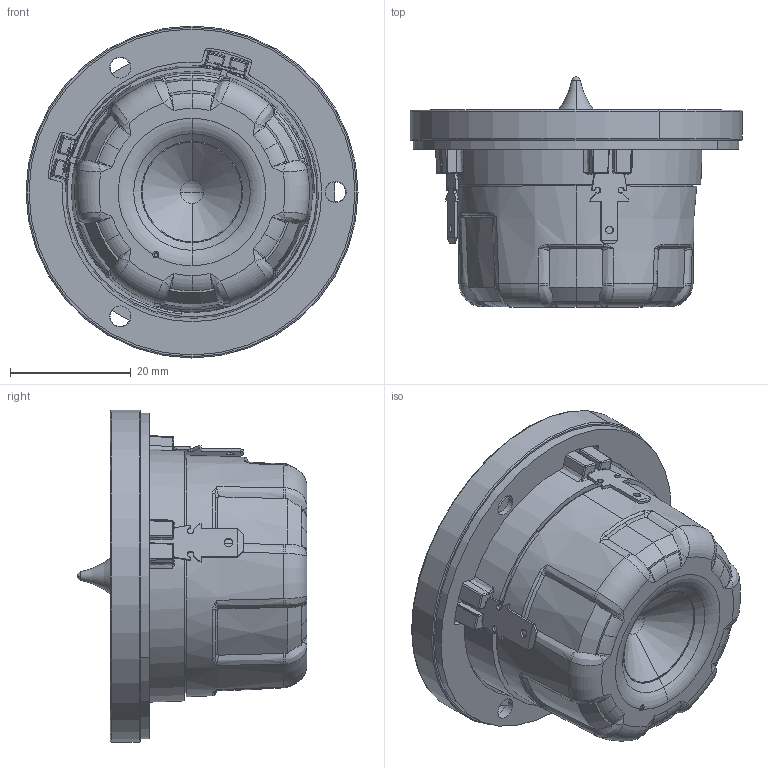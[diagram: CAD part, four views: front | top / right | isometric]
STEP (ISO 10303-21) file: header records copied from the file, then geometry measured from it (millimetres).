
FILE_DESCRIPTION (( 'STEP AP214' ), '1' );
FILE_NAME ('R2004-602200.STEP', '2024-01-03T13:35:29', ( '' ), ( '' ), 'SwSTEP 2.0', 'SolidWorks 2024', '' );
FILE_SCHEMA (( 'AUTOMOTIVE_DESIGN' ));
Length unit declared in the file: millimetre
Products named in the file (1): R2004-602200
Bounding box: 55 x 38.1 x 55 mm (x, y, z)
Volume: 43242 mm3; surface area: 12135 mm2
Topology: 3 solids, 5 shells, 599 faces, 1620 edges, 986 vertices
Faces by surface type: plane 173, cylinder 152, bspline 129, torus 85, cone 44, sphere 16
Entity records: 21542 total; most frequent: CARTESIAN_POINT 7653, ORIENTED_EDGE 3136, DIRECTION 2699, EDGE_CURVE 1568, AXIS2_PLACEMENT_3D 1088, VERTEX_POINT 986, EDGE_LOOP 626, CIRCLE 617
